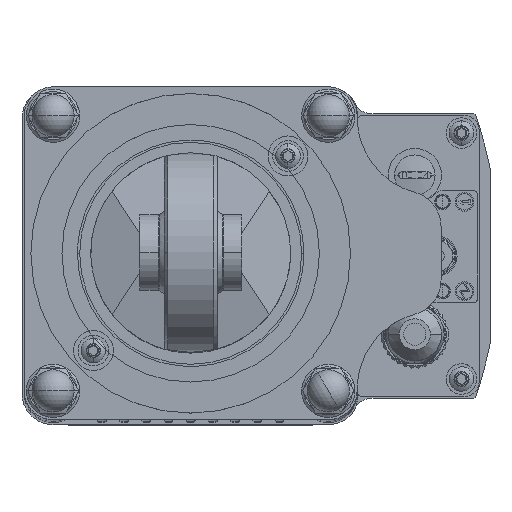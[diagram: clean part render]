
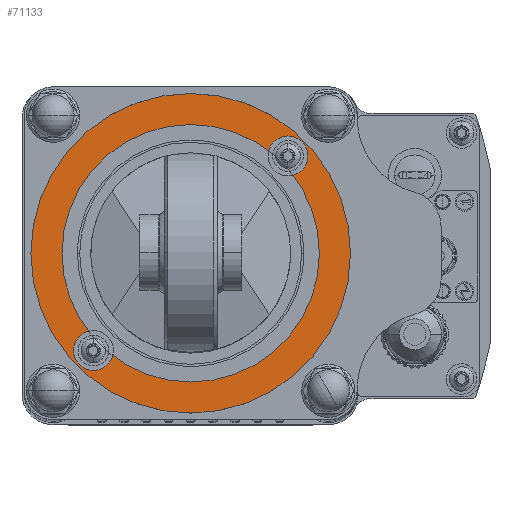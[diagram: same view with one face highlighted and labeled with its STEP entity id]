
A CAD part, top view. The second image highlights one B-rep face of the part: STEP entity #71133.
In plain terms, the highlighted planar face has unit normal (0, 0, 1).
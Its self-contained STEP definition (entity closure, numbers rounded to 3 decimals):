
#309 = DIRECTION ( 'NONE',  ( 0., 0., 1. ) ) ;
#2058 = AXIS2_PLACEMENT_3D ( 'NONE', #121550, #55285, #161532 ) ;
#4389 = CARTESIAN_POINT ( 'NONE',  ( 36., 0., 353.4 ) ) ;
#4965 = ORIENTED_EDGE ( 'NONE', *, *, #53668, .T. ) ;
#8221 = CARTESIAN_POINT ( 'NONE',  ( 0., 0., 353.4 ) ) ;
#8743 = VERTEX_POINT ( 'NONE', #108551 ) ;
#8842 = ORIENTED_EDGE ( 'NONE', *, *, #148311, .T. ) ;
#11306 = VERTEX_POINT ( 'NONE', #63062 ) ;
#11399 = CARTESIAN_POINT ( 'NONE',  ( 29., 0., 353.4 ) ) ;
#11697 = CARTESIAN_POINT ( 'NONE',  ( 0., 0., 353.4 ) ) ;
#15921 = CARTESIAN_POINT ( 'NONE',  ( 0., 0., 353.4 ) ) ;
#16999 = FACE_BOUND ( 'NONE', #22652, .T. ) ;
#22652 = EDGE_LOOP ( 'NONE', ( #108044, #149530 ) ) ;
#24743 = EDGE_CURVE ( 'NONE', #60583, #58476, #158601, .T. ) ;
#29662 = VERTEX_POINT ( 'NONE', #143054 ) ;
#30452 = DIRECTION ( 'NONE',  ( 0., 0., 1. ) ) ;
#31755 = EDGE_CURVE ( 'NONE', #11306, #120773, #116310, .T. ) ;
#40537 = EDGE_CURVE ( 'NONE', #29662, #44504, #94726, .T. ) ;
#42259 = FACE_BOUND ( 'NONE', #162414, .T. ) ;
#42758 = DIRECTION ( 'NONE',  ( 0., 0., 1. ) ) ;
#44504 = VERTEX_POINT ( 'NONE', #140942 ) ;
#50736 = ORIENTED_EDGE ( 'NONE', *, *, #40537, .F. ) ;
#52523 = ORIENTED_EDGE ( 'NONE', *, *, #101911, .F. ) ;
#53191 = CARTESIAN_POINT ( 'NONE',  ( 21.92, 21.92, 353.4 ) ) ;
#53668 = EDGE_CURVE ( 'NONE', #105654, #8743, #121593, .T. ) ;
#54639 = EDGE_CURVE ( 'NONE', #120773, #11306, #139570, .T. ) ;
#55285 = DIRECTION ( 'NONE',  ( 0., 0., 1. ) ) ;
#58476 = VERTEX_POINT ( 'NONE', #85323 ) ;
#60583 = VERTEX_POINT ( 'NONE', #101960 ) ;
#62417 = DIRECTION ( 'NONE',  ( 0., 0., 1. ) ) ;
#63062 = CARTESIAN_POINT ( 'NONE',  ( -29., 0., 353.4 ) ) ;
#63471 = EDGE_LOOP ( 'NONE', ( #52523, #50736 ) ) ;
#68054 = CARTESIAN_POINT ( 'NONE',  ( -21.92, -21.92, 353.4 ) ) ;
#68496 = FACE_OUTER_BOUND ( 'NONE', #152967, .T. ) ;
#69735 = AXIS2_PLACEMENT_3D ( 'NONE', #53191, #106363, #91556 ) ;
#71133 = ADVANCED_FACE ( 'NONE', ( #82380, #16999, #68496, #42259 ), #71874, .T. ) ;
#71874 = PLANE ( 'NONE',  #172060 ) ;
#75043 = CIRCLE ( 'NONE', #83375, 36. ) ;
#77181 = CIRCLE ( 'NONE', #2058, 1.25 ) ;
#82380 = FACE_BOUND ( 'NONE', #63471, .T. ) ;
#83375 = AXIS2_PLACEMENT_3D ( 'NONE', #93375, #42758, #108995 ) ;
#83425 = AXIS2_PLACEMENT_3D ( 'NONE', #68054, #30452, #162070 ) ;
#85323 = CARTESIAN_POINT ( 'NONE',  ( -20.67, -21.92, 353.4 ) ) ;
#91003 = DIRECTION ( 'NONE',  ( 1., 0., 0. ) ) ;
#91556 = DIRECTION ( 'NONE',  ( 1., 0., 0. ) ) ;
#92821 = CARTESIAN_POINT ( 'NONE',  ( 21.92, 21.92, 353.4 ) ) ;
#93375 = CARTESIAN_POINT ( 'NONE',  ( 0., 0., 353.4 ) ) ;
#93560 = CARTESIAN_POINT ( 'NONE',  ( 0., 0., 353.4 ) ) ;
#93796 = AXIS2_PLACEMENT_3D ( 'NONE', #15921, #144922, #106588 ) ;
#94726 = CIRCLE ( 'NONE', #69735, 1.25 ) ;
#96131 = DIRECTION ( 'NONE',  ( 0., 0., 1. ) ) ;
#101911 = EDGE_CURVE ( 'NONE', #44504, #29662, #111569, .T. ) ;
#101960 = CARTESIAN_POINT ( 'NONE',  ( -23.17, -21.92, 353.4 ) ) ;
#105654 = VERTEX_POINT ( 'NONE', #4389 ) ;
#106363 = DIRECTION ( 'NONE',  ( 0., 0., 1. ) ) ;
#106588 = DIRECTION ( 'NONE',  ( 1., 0., 0. ) ) ;
#108044 = ORIENTED_EDGE ( 'NONE', *, *, #138799, .F. ) ;
#108551 = CARTESIAN_POINT ( 'NONE',  ( -36., 0., 353.4 ) ) ;
#108995 = DIRECTION ( 'NONE',  ( 1., 0., 0. ) ) ;
#111569 = CIRCLE ( 'NONE', #161666, 1.25 ) ;
#116310 = CIRCLE ( 'NONE', #127507, 29. ) ;
#120089 = AXIS2_PLACEMENT_3D ( 'NONE', #11697, #309, #91003 ) ;
#120773 = VERTEX_POINT ( 'NONE', #11399 ) ;
#121550 = CARTESIAN_POINT ( 'NONE',  ( -21.92, -21.92, 353.4 ) ) ;
#121593 = CIRCLE ( 'NONE', #93796, 36. ) ;
#127507 = AXIS2_PLACEMENT_3D ( 'NONE', #93560, #96131, #135399 ) ;
#135399 = DIRECTION ( 'NONE',  ( 1., 0., 0. ) ) ;
#138799 = EDGE_CURVE ( 'NONE', #58476, #60583, #77181, .T. ) ;
#139570 = CIRCLE ( 'NONE', #120089, 29. ) ;
#140942 = CARTESIAN_POINT ( 'NONE',  ( 23.17, 21.92, 353.4 ) ) ;
#143054 = CARTESIAN_POINT ( 'NONE',  ( 20.67, 21.92, 353.4 ) ) ;
#144922 = DIRECTION ( 'NONE',  ( 0., 0., 1. ) ) ;
#146039 = ORIENTED_EDGE ( 'NONE', *, *, #31755, .F. ) ;
#148311 = EDGE_CURVE ( 'NONE', #8743, #105654, #75043, .T. ) ;
#149530 = ORIENTED_EDGE ( 'NONE', *, *, #24743, .F. ) ;
#152967 = EDGE_LOOP ( 'NONE', ( #8842, #4965 ) ) ;
#158601 = CIRCLE ( 'NONE', #83425, 1.25 ) ;
#159046 = DIRECTION ( 'NONE',  ( 1., 0., 0. ) ) ;
#161532 = DIRECTION ( 'NONE',  ( 1., 0., 0. ) ) ;
#161666 = AXIS2_PLACEMENT_3D ( 'NONE', #92821, #62417, #159046 ) ;
#162070 = DIRECTION ( 'NONE',  ( 1., 0., 0. ) ) ;
#162414 = EDGE_LOOP ( 'NONE', ( #146039, #169291 ) ) ;
#166833 = DIRECTION ( 'NONE',  ( 0., 0., 1. ) ) ;
#168543 = DIRECTION ( 'NONE',  ( 1., 0., 0. ) ) ;
#169291 = ORIENTED_EDGE ( 'NONE', *, *, #54639, .F. ) ;
#172060 = AXIS2_PLACEMENT_3D ( 'NONE', #8221, #166833, #168543 ) ;
